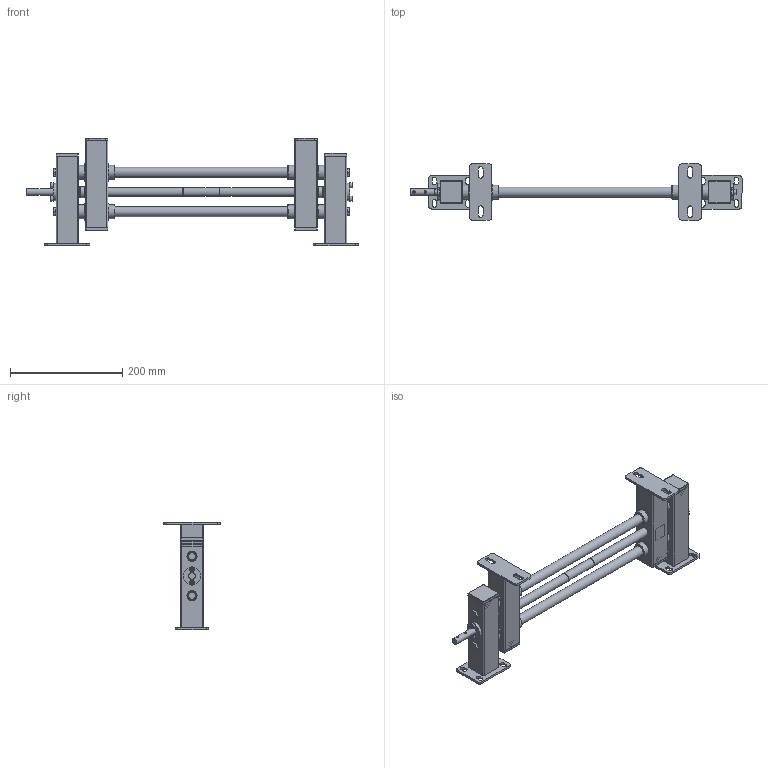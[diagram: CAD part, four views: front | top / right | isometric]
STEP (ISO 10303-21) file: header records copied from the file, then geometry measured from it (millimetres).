
FILE_DESCRIPTION(/* description */ ('SIDE ADJUSTMENT FOR SIDE GRIP CONVEYOR'),/* implementation_level */ '2;1');
FILE_NAME(/* name */ '\\carryline.intra\privat\users\mathias\Desktop\Tillfälliga filer\100-1400.stp',/* time_stamp */ '2018-11-20T10:16:27+01:00',/* author */ ('ML'),/* organization */ ('CARRYLINE'),/* preprocessor_version */ 'ST-DEVELOPER v17',/* originating_system */ 'Autodesk Inventor 2018',/* authorisation */ '');
FILE_SCHEMA (('AUTOMOTIVE_DESIGN { 1 0 10303 214 3 1 1 }'));
Length unit declared in the file: millimetre
Products named in the file (20): 100-1400-0-250; 15975_3; 15975_5; 15975_1; 15975_7; 15975_10; 15957_9; 15975_8; 15975_2; 15975_6; 15975_4; 5590-25; 5510-516; 15975_11; ISO 4026 - M5 x 5; 15975_20; 15975_15; 17078; 500-2010; 5500-816
Assembly tree (51 placements, depth 3):
  100-1400-0-250
    15975_4  x4
    15975_3  x2
    15975_5  x2
      15975_1
      15975_7
    15975_8  x2
      15975_2
      15975_6
    15975_10
    15957_9
    5590-25  x8
    5510-516  x4
    15975_11  x2
    ISO 4026 - M5 x 5  x2
    15975_15  x2
    15975_20
    17078  x8
    500-2010  x4
    5500-816  x4
Bounding box: 591.5 x 100 x 192 mm (x, y, z)
Volume: 782425.9 mm3; surface area: 447047.1 mm2
Topology: 55 solids, 55 shells, 1077 faces, 2733 edges, 1794 vertices
Faces by surface type: plane 592, cylinder 261, cone 200, sphere 16, torus 8
Full cylindrical faces by diameter (mm): 2 x16, 4 x2, 4.134 x6, 5 x10, 6.647 x4, 8 x4, 8.5 x8, 11.63 x4, 12 x4, 12.3 x2, 13.835 x2, 16 x3, 18 x24, 19 x4, 20 x18, 23.9 x8, 25 x20, 31 x2
Entity records: 11721 total; most frequent: CARTESIAN_POINT 2263, DIRECTION 1893, ORIENTED_EDGE 1748, EDGE_CURVE 874, AXIS2_PLACEMENT_3D 702, VERTEX_POINT 583, LINE 489, VECTOR 489
